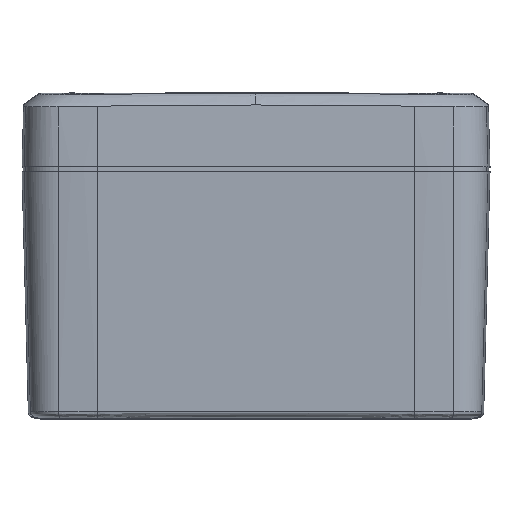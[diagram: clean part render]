
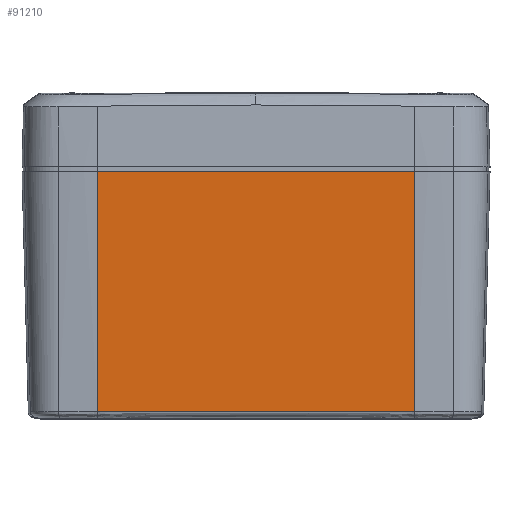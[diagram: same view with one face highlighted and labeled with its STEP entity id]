
A CAD part, top view. The second image highlights one B-rep face of the part: STEP entity #91210.
In plain terms, the highlighted planar face has unit normal (0, -0.026, 1).
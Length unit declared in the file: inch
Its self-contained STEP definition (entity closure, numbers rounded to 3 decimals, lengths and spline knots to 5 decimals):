
#1575 = VECTOR ( 'NONE', #24908, 39.37008 ) ;
#3137 = DIRECTION ( 'NONE',  ( 0., -1., -0.026 ) ) ;
#4982 = PLANE ( 'NONE',  #58333 ) ;
#6164 = EDGE_LOOP ( 'NONE', ( #7575, #79658, #97737, #36353 ) ) ;
#7575 = ORIENTED_EDGE ( 'NONE', *, *, #55790, .T. ) ;
#8320 = EDGE_CURVE ( 'NONE', #66307, #36148, #42725, .T. ) ;
#10296 = VECTOR ( 'NONE', #29655, 39.37008 ) ;
#18436 = VERTEX_POINT ( 'NONE', #97011 ) ;
#20707 = DIRECTION ( 'NONE',  ( 0., -1., -0.026 ) ) ;
#24908 = DIRECTION ( 'NONE',  ( 0., -1., -0.026 ) ) ;
#26941 = B_SPLINE_CURVE_WITH_KNOTS ( 'NONE', 3,
 ( #61417, #44178, #74692, #92446 ),
 .UNSPECIFIED., .F., .F.,
 ( 4, 4 ),
 ( 0., 1. ),
 .UNSPECIFIED. ) ;
#27792 = CARTESIAN_POINT ( 'NONE',  ( -1.10211, 1.715, 1.625 ) ) ;
#28779 = FACE_OUTER_BOUND ( 'NONE', #6164, .T. ) ;
#29655 = DIRECTION ( 'NONE',  ( 1., 0., 0. ) ) ;
#36148 = VERTEX_POINT ( 'NONE', #54844 ) ;
#36353 = ORIENTED_EDGE ( 'NONE', *, *, #95514, .F. ) ;
#42623 = CARTESIAN_POINT ( 'NONE',  ( 1.10211, 1.715, 1.625 ) ) ;
#42725 = LINE ( 'NONE', #57959, #61857 ) ;
#44178 = CARTESIAN_POINT ( 'NONE',  ( -0.36737, 0.04673, 1.58131 ) ) ;
#44429 = LINE ( 'NONE', #53054, #10296 ) ;
#44830 = VERTEX_POINT ( 'NONE', #65053 ) ;
#53054 = CARTESIAN_POINT ( 'NONE',  ( -1.10211, 1.715, 1.625 ) ) ;
#54844 = CARTESIAN_POINT ( 'NONE',  ( 1.10211, 0.04673, 1.58131 ) ) ;
#55790 = EDGE_CURVE ( 'NONE', #44830, #18436, #94559, .T. ) ;
#57959 = CARTESIAN_POINT ( 'NONE',  ( 1.10211, 1.715, 1.625 ) ) ;
#58333 = AXIS2_PLACEMENT_3D ( 'NONE', #27792, #89825, #20707 ) ;
#61417 = CARTESIAN_POINT ( 'NONE',  ( -1.10211, 0.04673, 1.58131 ) ) ;
#61857 = VECTOR ( 'NONE', #3137, 39.37008 ) ;
#62556 = CARTESIAN_POINT ( 'NONE',  ( -1.10211, 1.715, 1.625 ) ) ;
#65053 = CARTESIAN_POINT ( 'NONE',  ( -1.10211, 1.715, 1.625 ) ) ;
#66307 = VERTEX_POINT ( 'NONE', #42623 ) ;
#74692 = CARTESIAN_POINT ( 'NONE',  ( 0.36737, 0.04673, 1.58131 ) ) ;
#77982 = EDGE_CURVE ( 'NONE', #18436, #36148, #26941, .T. ) ;
#79658 = ORIENTED_EDGE ( 'NONE', *, *, #77982, .T. ) ;
#89825 = DIRECTION ( 'NONE',  ( 0., -0.026, 1. ) ) ;
#91210 = ADVANCED_FACE ( 'NONE', ( #28779 ), #4982, .T. ) ;
#92446 = CARTESIAN_POINT ( 'NONE',  ( 1.10211, 0.04673, 1.58131 ) ) ;
#94559 = LINE ( 'NONE', #62556, #1575 ) ;
#95514 = EDGE_CURVE ( 'NONE', #44830, #66307, #44429, .T. ) ;
#97011 = CARTESIAN_POINT ( 'NONE',  ( -1.10211, 0.04673, 1.58131 ) ) ;
#97737 = ORIENTED_EDGE ( 'NONE', *, *, #8320, .F. ) ;
